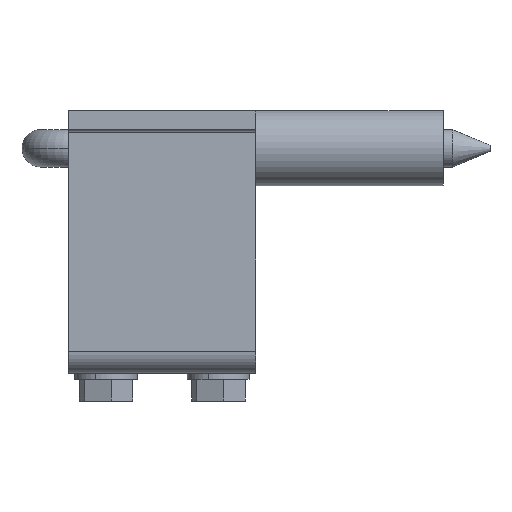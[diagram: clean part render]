
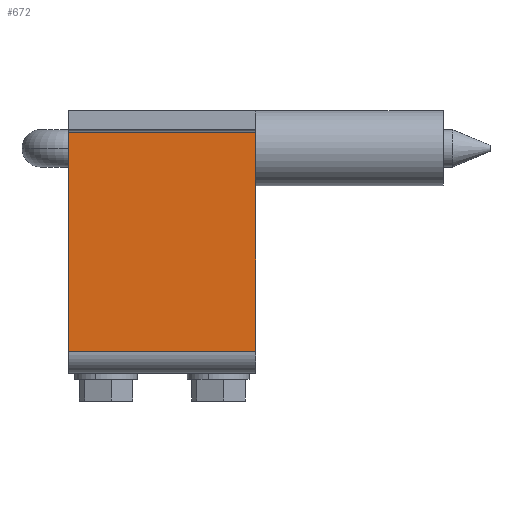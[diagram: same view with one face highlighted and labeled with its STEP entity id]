
A CAD part, left-side view. The second image highlights one B-rep face of the part: STEP entity #672.
In plain terms, the highlighted planar face has unit normal (-1, 0, 0) as drawn and (1, 0, 0) by its records, which use the part's own axes.
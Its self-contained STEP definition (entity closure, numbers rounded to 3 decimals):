
#616 = VERTEX_POINT ( 'NONE', #2445 ) ;
#618 = EDGE_CURVE ( 'NONE', #616, #619, #2444, .T. ) ;
#619 = VERTEX_POINT ( 'NONE', #2440 ) ;
#630 = VERTEX_POINT ( 'NONE', #2479 ) ;
#672 = ADVANCED_FACE ( 'NONE', ( #2534 ), #2533, .T. ) ;
#673 = EDGE_LOOP ( 'NONE', ( #674, #675, #677, #678 ) ) ;
#674 = ORIENTED_EDGE ( 'NONE', *, *, #618, .F. ) ;
#675 = ORIENTED_EDGE ( 'NONE', *, *, #676, .T. ) ;
#676 = EDGE_CURVE ( 'NONE', #616, #630, #2528, .T. ) ;
#677 = ORIENTED_EDGE ( 'NONE', *, *, #691, .F. ) ;
#678 = ORIENTED_EDGE ( 'NONE', *, *, #679, .F. ) ;
#679 = EDGE_CURVE ( 'NONE', #619, #689, #2524, .T. ) ;
#689 = VERTEX_POINT ( 'NONE', #2570 ) ;
#691 = EDGE_CURVE ( 'NONE', #689, #630, #2569, .T. ) ;
#2440 = CARTESIAN_POINT ( 'NONE',  ( 0., 30., 3.5 ) ) ;
#2441 = DIRECTION ( 'NONE',  ( 0., 0., -1. ) ) ;
#2442 = VECTOR ( 'NONE', #2441, 1000. ) ;
#2443 = CARTESIAN_POINT ( 'NONE',  ( 0., 30., 3. ) ) ;
#2444 = LINE ( 'NONE', #2443, #2442 ) ;
#2445 = CARTESIAN_POINT ( 'NONE',  ( 0., 30., 38.5 ) ) ;
#2479 = CARTESIAN_POINT ( 'NONE',  ( 0., 0., 38.5 ) ) ;
#2521 = DIRECTION ( 'NONE',  ( 0., -1., 0. ) ) ;
#2522 = VECTOR ( 'NONE', #2521, 1000. ) ;
#2523 = CARTESIAN_POINT ( 'NONE',  ( 0., 30., 3.5 ) ) ;
#2524 = LINE ( 'NONE', #2523, #2522 ) ;
#2525 = DIRECTION ( 'NONE',  ( 0., -1., 0. ) ) ;
#2526 = VECTOR ( 'NONE', #2525, 1000. ) ;
#2527 = CARTESIAN_POINT ( 'NONE',  ( 0., 30., 38.5 ) ) ;
#2528 = LINE ( 'NONE', #2527, #2526 ) ;
#2529 = DIRECTION ( 'NONE',  ( 0., 0., -1. ) ) ;
#2530 = DIRECTION ( 'NONE',  ( 1., 0., 0. ) ) ;
#2531 = CARTESIAN_POINT ( 'NONE',  ( 0., 30., 39. ) ) ;
#2532 = AXIS2_PLACEMENT_3D ( 'NONE', #2531, #2530, #2529 ) ;
#2533 = PLANE ( 'NONE',  #2532 ) ;
#2534 = FACE_OUTER_BOUND ( 'NONE', #673, .T. ) ;
#2566 = DIRECTION ( 'NONE',  ( 0., 0., 1. ) ) ;
#2567 = VECTOR ( 'NONE', #2566, 1000. ) ;
#2568 = CARTESIAN_POINT ( 'NONE',  ( 0., 0., 39. ) ) ;
#2569 = LINE ( 'NONE', #2568, #2567 ) ;
#2570 = CARTESIAN_POINT ( 'NONE',  ( 0., 0., 3.5 ) ) ;
